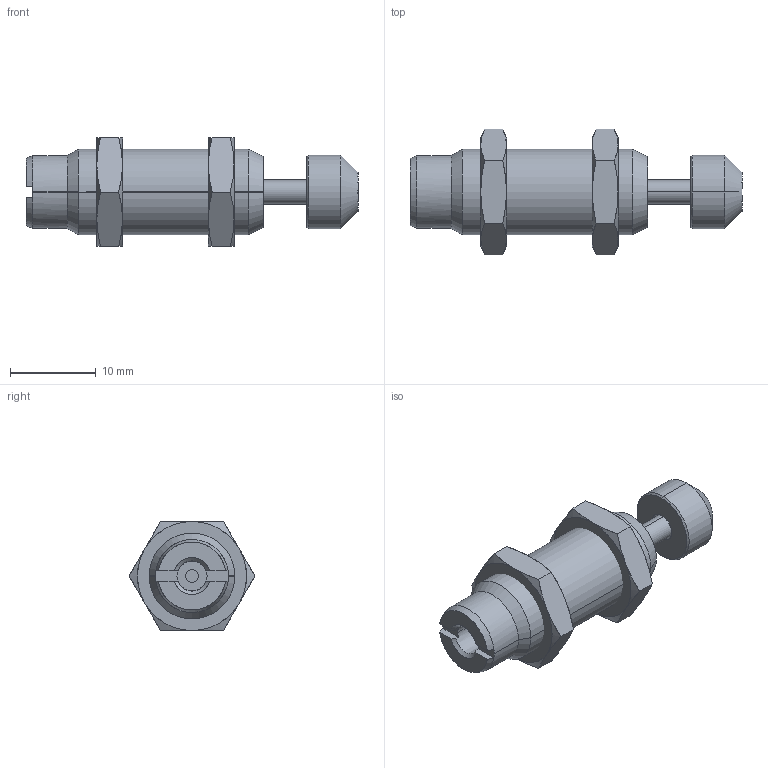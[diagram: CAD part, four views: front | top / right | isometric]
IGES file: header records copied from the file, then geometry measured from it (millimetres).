
Start section: SolidWorks IGES file using analytic representation for surfaces
Global section: file name: D:\IGS跡宒\AC1005.IGS,1; native system: 5HSolidWorks 2013; preprocessor: SolidWorks 2013; author: Administrator; date: 160406.151519; units: inch
Bounding box: 38.7 x 14.66 x 12.7 mm (x, y, z)
Surface area: 1940.5 mm2 (no closed solid volume)
Topology: 0 solids, 0 shells, 86 faces, 1230 edges, 1230 vertices
Faces by surface type: revolution 57, bspline 29
